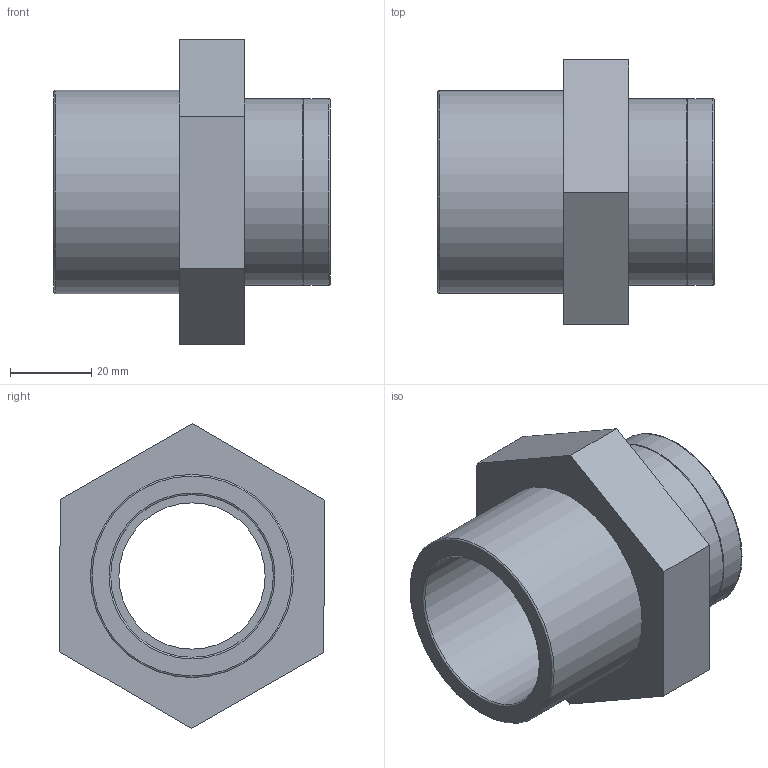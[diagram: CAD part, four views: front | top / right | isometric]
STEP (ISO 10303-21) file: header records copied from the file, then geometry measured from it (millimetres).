
FILE_DESCRIPTION(/* description */ ('PLASSON REDUCER THR-CEM REIN 50-(40)-1.1/4"'),/* implementation_level */ '2;1');
FILE_NAME(/* name */ 'C:\Dropbox\KIMPROJECTS-Inventor\99-16-3568-Processing\PVC Catalog 2017\057202\057202050013.ipt.stp',/* time_stamp */ '2017-12-07T16:05:33+02:00',/* author */ ('KIM'),/* organization */ (''),/* preprocessor_version */ 'ST-DEVELOPER v15.6',/* originating_system */ 'Autodesk Inventor 2015',/* authorisation */ '');
FILE_SCHEMA (('AUTOMOTIVE_DESIGN { 1 0 10303 214 3 1 1 }'));
Length unit declared in the file: millimetre
Products named in the file (1): 057202050013
Bounding box: 68 x 65.1 x 75.06 mm (x, y, z)
Volume: 71320.2 mm3; surface area: 25124 mm2
Topology: 1 solids, 1 shells, 24 faces, 47 edges, 29 vertices
Faces by surface type: plane 12, cylinder 6, torus 4, cone 2
Full cylindrical faces by diameter (mm): 36 x1, 38.952 x1, 40 x1, 46 x2, 50 x1
Entity records: 580 total; most frequent: DIRECTION 102, CARTESIAN_POINT 89, ORIENTED_EDGE 70, EDGE_LOOP 42, AXIS2_PLACEMENT_3D 42, EDGE_CURVE 35, VERTEX_POINT 29, FACE_OUTER_BOUND 24
